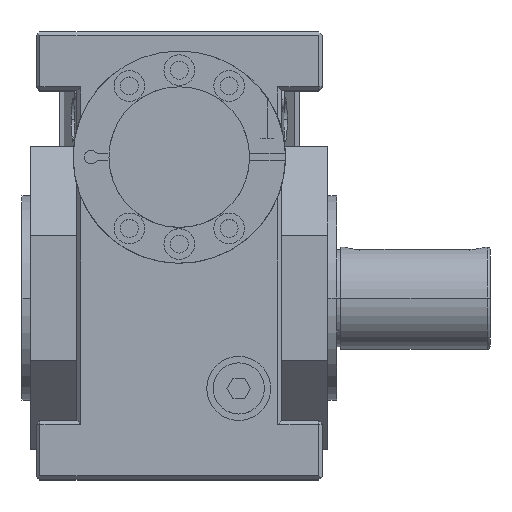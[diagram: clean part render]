
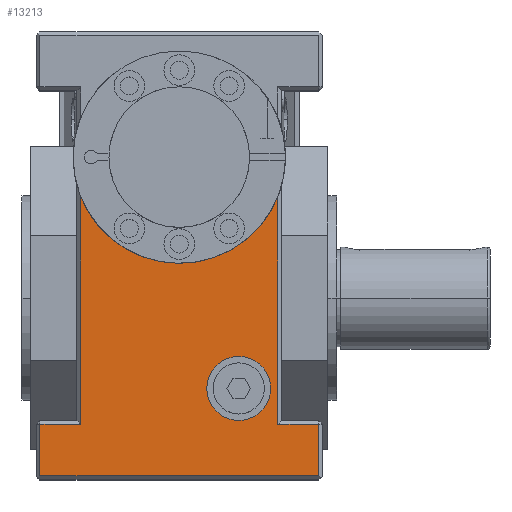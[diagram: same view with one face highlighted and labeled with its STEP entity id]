
A CAD part, top view. The second image highlights one B-rep face of the part: STEP entity #13213.
In plain terms, the highlighted planar face has unit normal (0, 0, 1).
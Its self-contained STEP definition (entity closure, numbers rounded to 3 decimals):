
#107 = CIRCLE ( 'NONE', #27791, 41.5 ) ;
#159 = LINE ( 'NONE', #15132, #36760 ) ;
#844 = CARTESIAN_POINT ( 'NONE',  ( -56., -49.5, 75. ) ) ;
#1549 = EDGE_CURVE ( 'NONE', #21440, #2891, #16996, .T. ) ;
#1814 = VECTOR ( 'NONE', #38869, 1000. ) ;
#2891 = VERTEX_POINT ( 'NONE', #27026 ) ;
#2894 = FACE_BOUND ( 'NONE', #21234, .T. ) ;
#3205 = LINE ( 'NONE', #844, #10547 ) ;
#4810 = DIRECTION ( 'NONE',  ( 0., 1., 0. ) ) ;
#4841 = EDGE_CURVE ( 'NONE', #2891, #30126, #159, .T. ) ;
#5398 = CARTESIAN_POINT ( 'NONE',  ( -54.5, -49.5, 75. ) ) ;
#5674 = ORIENTED_EDGE ( 'NONE', *, *, #10846, .F. ) ;
#6211 = ORIENTED_EDGE ( 'NONE', *, *, #36401, .T. ) ;
#6223 = LINE ( 'NONE', #10979, #26227 ) ;
#7524 = DIRECTION ( 'NONE',  ( 1., 0., 0. ) ) ;
#7652 = VECTOR ( 'NONE', #22948, 1000. ) ;
#8530 = LINE ( 'NONE', #34012, #21198 ) ;
#8862 = DIRECTION ( 'NONE',  ( 0., 1., 0. ) ) ;
#10134 = CARTESIAN_POINT ( 'NONE',  ( 56., 104., 75. ) ) ;
#10208 = CARTESIAN_POINT ( 'NONE',  ( 56., -49.5, 75. ) ) ;
#10547 = VECTOR ( 'NONE', #35246, 1000. ) ;
#10846 = EDGE_CURVE ( 'NONE', #16279, #39411, #11386, .T. ) ;
#10979 = CARTESIAN_POINT ( 'NONE',  ( 54.5, -48., 75. ) ) ;
#11386 = CIRCLE ( 'NONE', #32556, 12.5 ) ;
#11467 = CARTESIAN_POINT ( 'NONE',  ( -54.5, 104., 75. ) ) ;
#12540 = LINE ( 'NONE', #13269, #7652 ) ;
#13213 = ADVANCED_FACE ( 'NONE', ( #19489, #2894 ), #19669, .F. ) ;
#13269 = CARTESIAN_POINT ( 'NONE',  ( -38.5, -48., 75. ) ) ;
#13272 = DIRECTION ( 'NONE',  ( 0., 0., -1. ) ) ;
#13773 = ORIENTED_EDGE ( 'NONE', *, *, #1549, .T. ) ;
#14054 = VERTEX_POINT ( 'NONE', #24367 ) ;
#14353 = ORIENTED_EDGE ( 'NONE', *, *, #4841, .T. ) ;
#14612 = DIRECTION ( 'NONE',  ( 0., 1., 0. ) ) ;
#14669 = ORIENTED_EDGE ( 'NONE', *, *, #39468, .F. ) ;
#14804 = EDGE_CURVE ( 'NONE', #39411, #16279, #35584, .T. ) ;
#15132 = CARTESIAN_POINT ( 'NONE',  ( 56., -69.5, 75. ) ) ;
#15160 = VERTEX_POINT ( 'NONE', #40394 ) ;
#16279 = VERTEX_POINT ( 'NONE', #16284 ) ;
#16284 = CARTESIAN_POINT ( 'NONE',  ( 35.762, -35.413, 75. ) ) ;
#16547 = DIRECTION ( 'NONE',  ( 0., 0., 1. ) ) ;
#16665 = DIRECTION ( 'NONE',  ( 1., 0., 0. ) ) ;
#16678 = CARTESIAN_POINT ( 'NONE',  ( 23.262, -35.413, 75. ) ) ;
#16996 = LINE ( 'NONE', #11467, #25264 ) ;
#18695 = VERTEX_POINT ( 'NONE', #35684 ) ;
#18922 = EDGE_CURVE ( 'NONE', #30126, #15160, #6223, .T. ) ;
#19489 = FACE_OUTER_BOUND ( 'NONE', #19644, .T. ) ;
#19644 = EDGE_LOOP ( 'NONE', ( #13773, #14353, #33306, #6211, #27170, #14669, #30753, #23910 ) ) ;
#19669 = PLANE ( 'NONE',  #29472 ) ;
#20049 = DIRECTION ( 'NONE',  ( 0., 0., 1. ) ) ;
#21198 = VECTOR ( 'NONE', #8862, 1000. ) ;
#21234 = EDGE_LOOP ( 'NONE', ( #5674, #32758 ) ) ;
#21440 = VERTEX_POINT ( 'NONE', #5398 ) ;
#22062 = CARTESIAN_POINT ( 'NONE',  ( 38.5, -49.5, 75. ) ) ;
#22948 = DIRECTION ( 'NONE',  ( 0., -1., 0. ) ) ;
#23742 = DIRECTION ( 'NONE',  ( 0., -1., 0. ) ) ;
#23754 = LINE ( 'NONE', #10208, #1814 ) ;
#23910 = ORIENTED_EDGE ( 'NONE', *, *, #37467, .T. ) ;
#24367 = CARTESIAN_POINT ( 'NONE',  ( 38.5, 39.508, 75. ) ) ;
#24588 = CARTESIAN_POINT ( 'NONE',  ( 54.5, -69.5, 75. ) ) ;
#25264 = VECTOR ( 'NONE', #23742, 1000. ) ;
#25404 = CARTESIAN_POINT ( 'NONE',  ( 10.762, -35.413, 75. ) ) ;
#25525 = VERTEX_POINT ( 'NONE', #22062 ) ;
#26227 = VECTOR ( 'NONE', #14612, 1000. ) ;
#26231 = DIRECTION ( 'NONE',  ( 0., 0., 1. ) ) ;
#27026 = CARTESIAN_POINT ( 'NONE',  ( -54.5, -69.5, 75. ) ) ;
#27170 = ORIENTED_EDGE ( 'NONE', *, *, #37834, .T. ) ;
#27791 = AXIS2_PLACEMENT_3D ( 'NONE', #35673, #26231, #4810 ) ;
#28556 = DIRECTION ( 'NONE',  ( 0., 1., 0. ) ) ;
#29472 = AXIS2_PLACEMENT_3D ( 'NONE', #10134, #13272, #28556 ) ;
#29487 = CARTESIAN_POINT ( 'NONE',  ( 23.262, -35.413, 75. ) ) ;
#30126 = VERTEX_POINT ( 'NONE', #24588 ) ;
#30384 = EDGE_CURVE ( 'NONE', #18695, #32870, #12540, .T. ) ;
#30753 = ORIENTED_EDGE ( 'NONE', *, *, #30384, .T. ) ;
#32556 = AXIS2_PLACEMENT_3D ( 'NONE', #29487, #20049, #16665 ) ;
#32758 = ORIENTED_EDGE ( 'NONE', *, *, #14804, .F. ) ;
#32870 = VERTEX_POINT ( 'NONE', #39447 ) ;
#33306 = ORIENTED_EDGE ( 'NONE', *, *, #18922, .T. ) ;
#33989 = AXIS2_PLACEMENT_3D ( 'NONE', #16678, #16547, #7524 ) ;
#34012 = CARTESIAN_POINT ( 'NONE',  ( 38.5, 43.943, 75. ) ) ;
#35246 = DIRECTION ( 'NONE',  ( -1., 0., 0. ) ) ;
#35584 = CIRCLE ( 'NONE', #33989, 12.5 ) ;
#35673 = CARTESIAN_POINT ( 'NONE',  ( 0., 55., 75. ) ) ;
#35684 = CARTESIAN_POINT ( 'NONE',  ( -38.5, 39.508, 75. ) ) ;
#36401 = EDGE_CURVE ( 'NONE', #15160, #25525, #23754, .T. ) ;
#36760 = VECTOR ( 'NONE', #36847, 1000. ) ;
#36847 = DIRECTION ( 'NONE',  ( 1., 0., 0. ) ) ;
#37467 = EDGE_CURVE ( 'NONE', #32870, #21440, #3205, .T. ) ;
#37834 = EDGE_CURVE ( 'NONE', #25525, #14054, #8530, .T. ) ;
#38869 = DIRECTION ( 'NONE',  ( -1., 0., 0. ) ) ;
#39411 = VERTEX_POINT ( 'NONE', #25404 ) ;
#39447 = CARTESIAN_POINT ( 'NONE',  ( -38.5, -49.5, 75. ) ) ;
#39468 = EDGE_CURVE ( 'NONE', #18695, #14054, #107, .T. ) ;
#40394 = CARTESIAN_POINT ( 'NONE',  ( 54.5, -49.5, 75. ) ) ;
